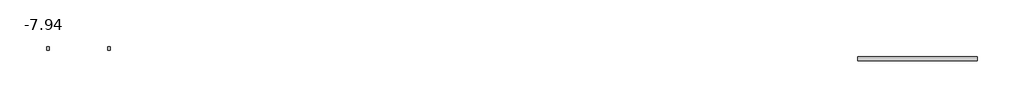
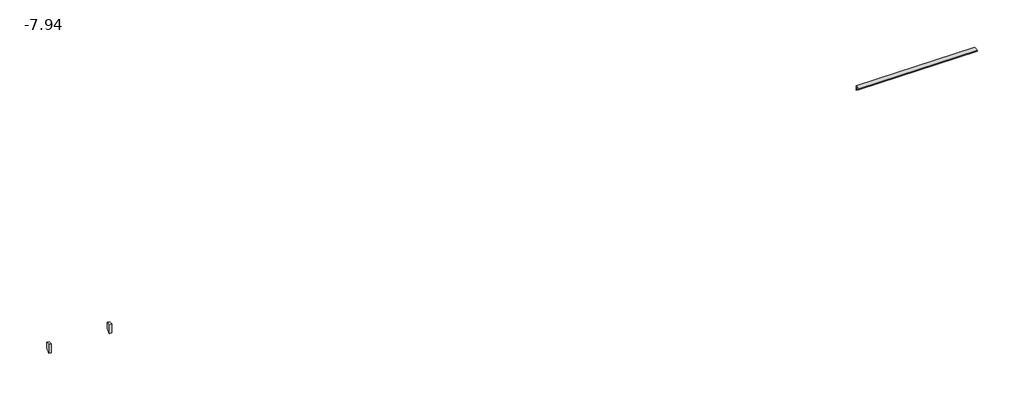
# One storey, incomplete: 3 proxies, 2 beams.
"""IFC4 building model written with IfcOpenShell, lengths in millimetres."""

import ifcopenshell
import ifcopenshell.guid

model = None  # the IFC model being written
_history = None  # IfcOwnerHistory: only IFC2X3 demands one
_inside = {}  # id of a spatial element -> (the spatial element, [elements in it])
_under = {}  # id of a project, library or spatial element -> (it, [spatial elements below it])
_declared = {}  # id of a project -> (the project, [libraries it declares])
_typed = {}  # id of a type object -> (the type object, [elements of that type])
_made_of = {}  # id of a material, layer set ... -> (it, [elements and type objects made of it])


def new_model(schema):
    """Start an empty IFC model of exactly this schema.

    Asked for "IFC4X3", IfcOpenShell would pick the latest addendum, in which some entities
    have other attributes; the version numbers below select the first issue.
    IFC2X3 requires an IfcOwnerHistory on every rooted entity: one is made here for all.
    """
    global model, _history
    if schema == "IFC4X3":
        model = ifcopenshell.file(schema_version=(4, 3, 0, 0))
    else:
        model = ifcopenshell.file(schema=schema)
    _inside.clear()
    _under.clear()
    _declared.clear()
    _typed.clear()
    _made_of.clear()
    _history = None
    if model.schema == "IFC2X3":
        org = make("IfcOrganization", Name="unknown")
        user = make(
            "IfcPersonAndOrganization",
            ThePerson=make("IfcPerson", FamilyName="unknown"),
            TheOrganization=org,
        )
        app = make(
            "IfcApplication",
            ApplicationDeveloper=org,
            Version="unknown",
            ApplicationFullName="unknown",
            ApplicationIdentifier="unknown",
        )
        _history = make(
            "IfcOwnerHistory",
            OwningUser=user,
            OwningApplication=app,
            ChangeAction="ADDED",
            CreationDate=0,
        )
    return model


def make(cls, **values):
    """One entity of the class cls with the attributes given. An attribute that is None is left unset."""
    return model.create_entity(
        cls, **{name: value for name, value in values.items() if value is not None}
    )


def rooted(cls, **values):
    """An entity with a GlobalId (a new one), such as an element, a storey or a relation."""
    return make(cls, GlobalId=ifcopenshell.guid.new(), OwnerHistory=_history, **values)


def si_unit(unit_type, name, prefix=None):
    """IfcSIUnit, for example si_unit("LENGTHUNIT", "METRE", prefix="MILLI")."""
    return make("IfcSIUnit", UnitType=unit_type, Prefix=prefix, Name=name)


def assignment(units):
    """IfcUnitAssignment: the units of a project."""
    return None if units is None else make("IfcUnitAssignment", Units=units)


def point(xyz):
    """IfcCartesianPoint."""
    return None if xyz is None else make("IfcCartesianPoint", Coordinates=xyz)


def direction(xyz):
    """IfcDirection."""
    return None if xyz is None else make("IfcDirection", DirectionRatios=xyz)


def frame(location, z_axis=None, x_axis=None):
    """IfcAxis2Placement3D, a coordinate frame: its origin and axes. An axis left out is left unset."""
    return make(
        "IfcAxis2Placement3D",
        Location=point(location),
        Axis=direction(z_axis),
        RefDirection=direction(x_axis),
    )


def origin():
    """The frame at (0, 0, 0) with its axes left unset."""
    return frame((0.0, 0.0, 0.0))


def place(relative_to, where):
    """IfcLocalPlacement: puts the frame where relative to a parent placement (None: the world)."""
    return make(
        "IfcLocalPlacement", PlacementRelTo=relative_to, RelativePlacement=where
    )


def context(
    kind, dimensions, precision=None, world=None, true_north=None, identifier=None
):
    """IfcGeometricRepresentationContext, for example the 3D "Model" context."""
    return make(
        "IfcGeometricRepresentationContext",
        ContextIdentifier=identifier,
        ContextType=kind,
        CoordinateSpaceDimension=dimensions,
        Precision=precision,
        WorldCoordinateSystem=world,
        TrueNorth=true_north,
    )


def project(units=None, contexts=None):
    """IfcProject with its units and contexts."""
    return rooted(
        "IfcProject",
        Name="project",
        RepresentationContexts=contexts,
        UnitsInContext=assignment(units),
    )


def spatial(cls, under=None, at=None, **own):
    """A site, building, storey or space (cls), placed at a placement, below another one or the project."""
    s = rooted(cls, ObjectPlacement=at, **own)
    if under is not None:
        _under.setdefault(under.id(), (under, []))[1].append(s)
    return s


def polyline(points):
    """IfcPolyline through the points."""
    return make("IfcPolyline", Points=[point(p) for p in points])


def ellipse_curve(where, semi_axis1, semi_axis2):
    """IfcEllipse in the frame where."""
    return make(
        "IfcEllipse", Position=where, SemiAxis1=semi_axis1, SemiAxis2=semi_axis2
    )


def outline(outer, holes=None, kind="AREA"):
    """IfcArbitraryClosedProfileDef: a profile drawn as a closed curve; with holes, ...WithVoids."""
    if holes is None:
        return make("IfcArbitraryClosedProfileDef", ProfileType=kind, OuterCurve=outer)
    return make(
        "IfcArbitraryProfileDefWithVoids",
        ProfileType=kind,
        OuterCurve=outer,
        InnerCurves=holes,
    )


def extrude(swept, where, along, depth):
    """IfcExtrudedAreaSolid: the profile swept, set in the frame where, extruded along a direction by depth."""
    return make(
        "IfcExtrudedAreaSolid",
        SweptArea=swept,
        Position=where,
        ExtrudedDirection=direction(along),
        Depth=depth,
    )


def shape(context_of_items, identifier, shape_type, items):
    """IfcShapeRepresentation: the items that make up one representation, for example the "Body"."""
    return make(
        "IfcShapeRepresentation",
        ContextOfItems=context_of_items,
        RepresentationIdentifier=identifier,
        RepresentationType=shape_type,
        Items=items,
    )


def source(mapping_origin, context_of_items, identifier, shape_type, items):
    """IfcRepresentationMap: a shape defined once, which mapped items show again and again."""
    return make(
        "IfcRepresentationMap",
        MappingOrigin=mapping_origin,
        MappedRepresentation=shape(context_of_items, identifier, shape_type, items),
    )


def transform(
    local_origin,
    x_axis=None,
    y_axis=None,
    z_axis=None,
    scale=None,
    scale2=None,
    scale3=None,
    uniform=True,
):
    """IfcCartesianTransformationOperator3D, or its non-uniform kind. x_axis, y_axis, z_axis: its Axis1, 2, 3."""
    if uniform:
        return make(
            "IfcCartesianTransformationOperator3D",
            Axis1=direction(x_axis),
            Axis2=direction(y_axis),
            LocalOrigin=point(local_origin),
            Scale=scale,
            Axis3=direction(z_axis),
        )
    return make(
        "IfcCartesianTransformationOperator3DnonUniform",
        Axis1=direction(x_axis),
        Axis2=direction(y_axis),
        LocalOrigin=point(local_origin),
        Scale=scale,
        Axis3=direction(z_axis),
        Scale2=scale2,
        Scale3=scale3,
    )


def mapped(mapping_source, mapping_target):
    """IfcMappedItem: shows the shape of a source again, moved by a transform."""
    return make(
        "IfcMappedItem", MappingSource=mapping_source, MappingTarget=mapping_target
    )


def made_of(thing, what):
    """Note that an element or type object is made of a material, layer set ...; save() writes the relation."""
    if what is not None:
        _made_of.setdefault(what.id(), (what, []))[1].append(thing)
    return thing


def element(
    cls,
    number,
    at=None,
    inside=None,
    cuts=None,
    type_object=None,
    material=None,
    context=None,
    identifier="Body",
    shape_type=None,
    held_by="IfcProductDefinitionShape",
    body=None,
    shapes=None,
    **own,
):
    """One element of the class cls, such as IfcWall. Its Tag is "e" and its number.

    at: its placement. inside: the storey or other place that contains it. cuts: it is an
    opening in that element (IfcRelVoidsElement). A single representation is given by context,
    identifier, shape_type and body (its items); several are given by shapes. held_by: the class
    of the entity that holds the representations. save() writes the other relations.
    """
    e = rooted(cls, Tag="e%d" % number, ObjectPlacement=at, **own)
    if body is not None:
        shapes = [shape(context, identifier, shape_type, body)]
    if shapes is not None:
        e.Representation = make(held_by, Representations=shapes)
    if inside is not None:
        _inside.setdefault(inside.id(), (inside, []))[1].append(e)
    if cuts is not None:
        rooted(
            "IfcRelVoidsElement", RelatingBuildingElement=cuts, RelatedOpeningElement=e
        )
    if type_object is not None:
        _typed.setdefault(type_object.id(), (type_object, []))[1].append(e)
    return made_of(e, material)


def aggregate(whole, parts):
    """IfcRelAggregates: a whole, such as a stair, and the parts it consists of."""
    return rooted("IfcRelAggregates", RelatingObject=whole, RelatedObjects=parts)


def save(model, path):
    """Write the relations noted so far, then the file.

    IfcRelAggregates (storeys below a building ...), IfcRelContainedInSpatialStructure (elements
    in a storey), IfcRelDefinesByType, IfcRelAssociatesMaterial and IfcRelDeclares: one each for
    every whole, place, type object, material and project.
    """
    for whole, parts in _under.values():
        aggregate(whole, parts)
    for where, things in _inside.values():
        rooted(
            "IfcRelContainedInSpatialStructure",
            RelatedElements=things,
            RelatingStructure=where,
        )
    for kind, things in _typed.values():
        rooted("IfcRelDefinesByType", RelatedObjects=things, RelatingType=kind)
    for what, things in _made_of.values():
        rooted("IfcRelAssociatesMaterial", RelatedObjects=things, RelatingMaterial=what)
    for by, libraries in _declared.values():
        rooted("IfcRelDeclares", RelatingContext=by, RelatedDefinitions=libraries)
    model.write(path)


def plane_surface(at):
    """IfcPlane: the flat surface through the origin of the frame at, square to its z axis."""
    return make("IfcPlane", Position=at)


def cylinder_surface(at, radius):
    """IfcCylindricalSurface: all points at the distance radius from the z axis of the frame at."""
    return make("IfcCylindricalSurface", Position=at, Radius=radius)


def revolved_surface(curve, axis_point, axis_direction):
    """IfcSurfaceOfRevolution: the curve turned about the line through axis_point along axis_direction."""
    return make(
        "IfcSurfaceOfRevolution",
        SweptCurve=make("IfcArbitraryOpenProfileDef", ProfileType="CURVE", Curve=curve),
        AxisPosition=make("IfcAxis1Placement", Location=point(axis_point), Axis=direction(axis_direction)),
    )


def advanced_brep(points, edges, surfaces, faces):
    """IfcAdvancedBrep: a solid bounded by faces that lie on surfaces and meet in shared edges.

    An edge is (start, end): straight between two places in points (the first is 0);
    or (start, end, curve); or (start, end, curve, False) where it runs against its curve.
    A face is (place in surfaces, loops), or (place, loops, False) where it looks against
    its surface's normal. A loop lists edges by number (the first is 1), with a minus sign
    where the edge is run from its end to its start. The first loop is the outer one.
    """
    corners = [point(p) for p in points]
    vertices = [make("IfcVertexPoint", VertexGeometry=c) for c in corners]
    made = []
    for start, end, *more in edges:
        made.append(
            make(
                "IfcEdgeCurve",
                EdgeStart=vertices[start],
                EdgeEnd=vertices[end],
                EdgeGeometry=more[0] if more else make("IfcPolyline", Points=[corners[start], corners[end]]),
                SameSense=more[1] if len(more) > 1 else True,
            )
        )
    hull = []
    for where, loops, *sense in faces:
        bounds = []
        for j, loop in enumerate(loops):
            ring = [make("IfcOrientedEdge", EdgeElement=made[abs(k) - 1], Orientation=k > 0) for k in loop]
            bounds.append(
                make(
                    "IfcFaceOuterBound" if j == 0 else "IfcFaceBound",
                    Bound=make("IfcEdgeLoop", EdgeList=ring),
                    Orientation=True,
                )
            )
        hull.append(make("IfcAdvancedFace", Bounds=bounds, FaceSurface=surfaces[where], SameSense=sense[0] if sense else True))
    return make("IfcAdvancedBrep", Outer=make("IfcClosedShell", CfsFaces=hull))


def beam_156a2913(model_context):
    return source(origin(), model_context, "Body", "SweptSolid", [
        extrude(outline(polyline([(24702.7284342, -170.0), (24702.7284342, -640.0), (24413.3920265, -926.0), (24413.3920265, -170.0), (24702.7284342, -170.0)])), frame((-571.2723874, 0.0, 0.0), z_axis=(1.0, 0.0, 0.0), x_axis=(0.0, 1.0, 0.0)), (0.0, 0.0, 1.0), 200.0),
    ])


model = new_model("IFC4")

# Units and contexts
model_context = context("Model", 3, world=origin())
ifc_project = project(units=[si_unit("LENGTHUNIT", "METRE", prefix="MILLI")], contexts=[model_context])

# Site, building, storey
site = spatial("IfcSite", under=ifc_project)
building = spatial("IfcBuilding", under=site)
storey = spatial("IfcBuildingStorey", under=building, Name="-7.94", Elevation=-899.9044549)

# Beams
placement = place(None, origin())
beam_shape = beam_156a2913(model_context)
element("IfcBeam", 1, ObjectType="appoggiTravi4 : appoggiTravi", at=placement, inside=storey, context=model_context, shape_type="MappedRepresentation", body=[
    mapped(beam_shape, transform((-9680.0052272, 0.0, 32.0), x_axis=(1.0, 0.0, 0.0), y_axis=(0.0, 1.0, 0.0), z_axis=(0.0, 0.0, 1.0))),
])
element("IfcBeam", 2, ObjectType="appoggiTravi7 : appoggiTravi", at=placement, inside=storey, context=model_context, shape_type="MappedRepresentation", body=[
    mapped(beam_shape, transform((-14520.0078408, 0.0, 48.5), x_axis=(1.0, 0.0, 0.0), y_axis=(0.0, 1.0, 0.0), z_axis=(0.0, 0.0, 1.0))),
])

# Proxies
element("IfcBuildingElementProxy", 3, Name="Thickened 24\" x 12\"", ObjectType="Thickened 24\" x 12\"", at=placement, inside=storey, context=model_context, shape_type="AdvancedBrep", body=[
    advanced_brep(
    [(49007.3573777, 23893.5345489, -801.074069), (49007.3573777, 23893.5345489, -776.0734085), (49007.3573777, 23869.2975025, -776.0734085), (49007.3573777, 23865.7141427, -742.8516604), (49007.3573777, 23830.9579571, -693.0230187), (49007.3573777, 23840.2403547, -643.4060681), (49007.3573777, 23840.2403547, -613.4143381), (49007.3573777, 23810.2807918, -613.4143381), (49007.3573777, 23810.2807918, -552.8811566), (49007.3573777, 23623.3920265, -552.8811566), (49007.3573777, 23623.3920265, -592.8822133), (49007.3573777, 23563.3920265, -592.8822133), (49007.3573777, 23563.3920265, -482.5363397), (49007.3573777, 23913.3920265, -462.878779), (49007.3573777, 23913.3920265, -801.074069), (58487.3573777, 23893.5345489, -869.9824012), (58487.3573777, 23913.3920265, -869.9824012), (58487.3573777, 23913.3920265, -531.7871112), (58487.3573777, 23563.3920265, -551.4446719), (58487.3573777, 23563.3920265, -661.7905455), (58487.3573777, 23623.3920265, -661.7905455), (58487.3573777, 23623.3920265, -621.7894888), (58487.3573777, 23810.2807918, -621.7894888), (58487.3573777, 23810.2807918, -682.3226703), (58487.3573777, 23840.2403547, -682.3226703), (58487.3573777, 23840.2403547, -712.3144004), (58487.3573777, 23830.9579571, -761.9313509), (58487.3573777, 23865.7141427, -811.7599926), (58487.3573777, 23869.2975025, -844.9817408), (58487.3573777, 23893.5345489, -844.9817408)],
    [
        (0, 1),
        (1, 2),
        (2, 3),
        (3, 4, ellipse_curve(frame((49007.3573777, 23810.7306972, -744.1689932), z_axis=(1.0, 0.0, 0.0), x_axis=(0.0, 0.0, -1.0)), 55.0006761, 54.9992232)),
        (4, 5, ellipse_curve(frame((49007.3573777, 23837.1642514, -668.5073588), z_axis=(-1.0, 0.0, 0.0), x_axis=(0.0, 0.0, 1.0)), 25.2890827, 25.2884146)),
        (5, 6),
        (6, 7),
        (7, 8),
        (8, 9),
        (9, 10),
        (10, 11),
        (11, 12),
        (12, 13),
        (13, 14),
        (14, 0),
        (15, 16),
        (16, 17),
        (17, 18),
        (18, 19),
        (19, 20),
        (20, 21),
        (21, 22),
        (22, 23),
        (23, 24),
        (24, 25),
        (25, 26, ellipse_curve(frame((58487.3573777, 23837.1642514, -737.415691), z_axis=(1.0, 0.0, 0.0), x_axis=(0.0, 0.0, 1.0)), 25.2890827, 25.2884146)),
        (26, 27, ellipse_curve(frame((58487.3573777, 23810.7306972, -813.0773254), z_axis=(-1.0, 0.0, 0.0), x_axis=(0.0, 0.0, -1.0)), 55.0006761, 54.9992232)),
        (27, 28),
        (28, 29),
        (29, 15),
        (0, 15),
        (29, 1),
        (28, 2),
        (27, 3),
        (26, 4),
        (25, 5),
        (24, 6),
        (23, 7),
        (22, 8),
        (21, 9),
        (20, 10),
        (19, 11),
        (18, 12),
        (17, 13),
        (16, 14),
    ],
    [
        plane_surface(frame((49007.3573777, 23913.3920265, -582.8819491), z_axis=(-1.0, 0.0, 0.0), x_axis=(0.0, 1.0, 0.0))),
        plane_surface(frame((58487.3573777, 23913.3920265, -651.7902813), z_axis=(1.0, 0.0, 0.0), x_axis=(0.0, 1.0, 0.0))),
        plane_surface(frame((49007.3573777, 23893.5345489, -801.074069), z_axis=(0.0, -1.0000000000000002, 0.0), x_axis=(0.9999735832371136, 0.0, -0.007268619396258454))),
        plane_surface(frame((49007.3573777, 23893.5345489, -776.0734085), z_axis=(-0.007268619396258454, 0.0, -0.9999735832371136), x_axis=(0.9999735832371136, 0.0, -0.007268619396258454))),
        plane_surface(frame((49007.3573777, 23869.2975025, -776.0734085), z_axis=(-0.0007795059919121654, -0.9942328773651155, -0.1072398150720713), x_axis=(0.9999735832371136, 0.0, -0.0072686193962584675))),
        revolved_surface(polyline([(58487.757146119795, 23755.731474, -813.080231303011), (49006.957609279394, 23755.731474, -744.1660874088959)]), (49006.1850746, 23810.7306972, -744.160472), (0.9999735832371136, 0.0, -0.0072686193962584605)),
        cylinder_surface(frame((49006.7350157, 23837.1642514, -668.502835), z_axis=(-0.9999735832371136, 0.0, 0.0072686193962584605), x_axis=(0.0, -1.0, 0.0)), 25.2884146),
        plane_surface(frame((49007.3573777, 23840.2403547, -643.4060681), z_axis=(0.0, -1.0000000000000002, 0.0), x_axis=(0.9999735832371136, 0.0, -0.007268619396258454))),
        plane_surface(frame((49007.3573777, 23840.2403547, -613.4143381), z_axis=(-0.007268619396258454, 0.0, -0.9999735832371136), x_axis=(0.9999735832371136, 0.0, -0.007268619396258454))),
        plane_surface(frame((49007.3573777, 23810.2807918, -613.4143381), z_axis=(0.0, -1.0000000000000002, 0.0), x_axis=(0.9999735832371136, 0.0, -0.007268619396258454))),
        plane_surface(frame((49007.3573777, 23810.2807918, -552.8811566), z_axis=(-0.0072686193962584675, 0.0, -0.9999735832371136), x_axis=(0.9999735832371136, 0.0, -0.0072686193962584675))),
        plane_surface(frame((49007.3573777, 23623.3920265, -552.8811566), z_axis=(0.0, 1.0000000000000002, 0.0), x_axis=(0.9999735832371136, 0.0, -0.0072686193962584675))),
        plane_surface(frame((49007.3573777, 23623.3920265, -592.8822133), z_axis=(-0.0072686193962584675, 0.0, -0.9999735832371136), x_axis=(0.9999735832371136, 0.0, -0.0072686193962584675))),
        plane_surface(frame((49007.3573777, 23563.3920265, -592.8822133), z_axis=(0.0, -1.0000000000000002, 0.0), x_axis=(0.9999735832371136, 0.0, -0.0072686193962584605))),
        plane_surface(frame((49007.3573777, 23563.3920265, -482.5363397), z_axis=(0.0072571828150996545, -0.056074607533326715, 0.9984002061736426), x_axis=(0.9999735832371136, 0.0, -0.0072686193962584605))),
        plane_surface(frame((49007.3573777, 23913.3920265, -462.878779), z_axis=(0.0, 1.0000000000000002, 0.0), x_axis=(0.9999735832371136, 0.0, -0.007268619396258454))),
        plane_surface(frame((49007.3573777, 23913.3920265, -801.074069), z_axis=(-0.007268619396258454, 0.0, -0.9999735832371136), x_axis=(0.9999735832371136, 0.0, -0.007268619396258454))),
    ],
    [
        (0, [[1, 2, 3, 4, 5, 6, 7, 8, 9, 10, 11, 12, 13, 14, 15]]),
        (1, [[16, 17, 18, 19, 20, 21, 22, 23, 24, 25, 26, 27, 28, 29, 30]]),
        (2, [[-1, 31, -30, 32]]),
        (3, [[-2, -32, -29, 33]]),
        (4, [[-3, -33, -28, 34]]),
        (5, [[-4, -34, -27, 35]]),
        (6, [[-5, -35, -26, 36]]),
        (7, [[-6, -36, -25, 37]]),
        (8, [[-7, -37, -24, 38]]),
        (9, [[-8, -38, -23, 39]]),
        (10, [[-9, -39, -22, 40]]),
        (11, [[-10, -40, -21, 41]]),
        (12, [[-11, -41, -20, 42]]),
        (13, [[-12, -42, -19, 43]]),
        (14, [[-13, -43, -18, 44]]),
        (15, [[-14, -44, -17, 45]]),
        (16, [[-15, -45, -16, -31]]),
    ],
),
])
element("IfcBuildingElementProxy", 4, Name="Thickened 24\" x 12\"", ObjectType="Thickened 24\" x 12\"", at=placement, inside=storey, context=model_context, shape_type="AdvancedBrep", body=[
    advanced_brep(
    [(49007.3573777, 23893.5345489, -801.074069), (49007.3573777, 23893.5345489, -776.0734085), (49007.3573777, 23869.2975025, -776.0734085), (49007.3573777, 23865.7141427, -742.8516604), (49007.3573777, 23830.9579571, -693.0230187), (49007.3573777, 23840.2403547, -643.4060681), (49007.3573777, 23840.2403547, -613.4143381), (49007.3573777, 23810.2807918, -613.4143381), (49007.3573777, 23810.2807918, -552.8811566), (49007.3573777, 23623.3920265, -552.8811566), (49007.3573777, 23623.3920265, -592.8822133), (49007.3573777, 23563.3920265, -592.8822133), (49007.3573777, 23563.3920265, -482.5363397), (49007.3573777, 23913.3920265, -462.878779), (49007.3573777, 23913.3920265, -801.074069), (58487.3573777, 23893.5345489, -869.9824012), (58487.3573777, 23913.3920265, -869.9824012), (58487.3573777, 23913.3920265, -531.7871112), (58487.3573777, 23563.3920265, -551.4446719), (58487.3573777, 23563.3920265, -661.7905455), (58487.3573777, 23623.3920265, -661.7905455), (58487.3573777, 23623.3920265, -621.7894888), (58487.3573777, 23810.2807918, -621.7894888), (58487.3573777, 23810.2807918, -682.3226703), (58487.3573777, 23840.2403547, -682.3226703), (58487.3573777, 23840.2403547, -712.3144004), (58487.3573777, 23830.9579571, -761.9313509), (58487.3573777, 23865.7141427, -811.7599926), (58487.3573777, 23869.2975025, -844.9817408), (58487.3573777, 23893.5345489, -844.9817408)],
    [
        (0, 1),
        (1, 2),
        (2, 3),
        (3, 4, ellipse_curve(frame((49007.3573777, 23810.7306972, -744.1689932), z_axis=(1.0, 0.0, 0.0), x_axis=(0.0, 0.0, -1.0)), 55.0006761, 54.9992232)),
        (4, 5, ellipse_curve(frame((49007.3573777, 23837.1642514, -668.5073588), z_axis=(-1.0, 0.0, 0.0), x_axis=(0.0, 0.0, 1.0)), 25.2890827, 25.2884146)),
        (5, 6),
        (6, 7),
        (7, 8),
        (8, 9),
        (9, 10),
        (10, 11),
        (11, 12),
        (12, 13),
        (13, 14),
        (14, 0),
        (15, 16),
        (16, 17),
        (17, 18),
        (18, 19),
        (19, 20),
        (20, 21),
        (21, 22),
        (22, 23),
        (23, 24),
        (24, 25),
        (25, 26, ellipse_curve(frame((58487.3573777, 23837.1642514, -737.415691), z_axis=(1.0, 0.0, 0.0), x_axis=(0.0, 0.0, 1.0)), 25.2890827, 25.2884146)),
        (26, 27, ellipse_curve(frame((58487.3573777, 23810.7306972, -813.0773254), z_axis=(-1.0, 0.0, 0.0), x_axis=(0.0, 0.0, -1.0)), 55.0006761, 54.9992232)),
        (27, 28),
        (28, 29),
        (29, 15),
        (0, 15),
        (29, 1),
        (28, 2),
        (27, 3),
        (26, 4),
        (25, 5),
        (24, 6),
        (23, 7),
        (22, 8),
        (21, 9),
        (20, 10),
        (19, 11),
        (18, 12),
        (17, 13),
        (16, 14),
    ],
    [
        plane_surface(frame((49007.3573777, 23913.3920265, -582.8819491), z_axis=(-1.0, 0.0, 0.0), x_axis=(0.0, 1.0, 0.0))),
        plane_surface(frame((58487.3573777, 23913.3920265, -651.7902813), z_axis=(1.0, 0.0, 0.0), x_axis=(0.0, 1.0, 0.0))),
        plane_surface(frame((49007.3573777, 23893.5345489, -801.074069), z_axis=(0.0, -1.0000000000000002, 0.0), x_axis=(0.9999735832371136, 0.0, -0.007268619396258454))),
        plane_surface(frame((49007.3573777, 23893.5345489, -776.0734085), z_axis=(-0.007268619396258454, 0.0, -0.9999735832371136), x_axis=(0.9999735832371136, 0.0, -0.007268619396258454))),
        plane_surface(frame((49007.3573777, 23869.2975025, -776.0734085), z_axis=(-0.0007795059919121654, -0.9942328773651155, -0.1072398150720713), x_axis=(0.9999735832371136, 0.0, -0.0072686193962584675))),
        revolved_surface(polyline([(58487.757146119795, 23755.731474, -813.080231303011), (49006.957609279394, 23755.731474, -744.1660874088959)]), (49006.1850746, 23810.7306972, -744.160472), (0.9999735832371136, 0.0, -0.0072686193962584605)),
        cylinder_surface(frame((49006.7350157, 23837.1642514, -668.502835), z_axis=(-0.9999735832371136, 0.0, 0.0072686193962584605), x_axis=(0.0, -1.0, 0.0)), 25.2884146),
        plane_surface(frame((49007.3573777, 23840.2403547, -643.4060681), z_axis=(0.0, -1.0000000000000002, 0.0), x_axis=(0.9999735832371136, 0.0, -0.007268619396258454))),
        plane_surface(frame((49007.3573777, 23840.2403547, -613.4143381), z_axis=(-0.007268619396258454, 0.0, -0.9999735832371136), x_axis=(0.9999735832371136, 0.0, -0.007268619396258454))),
        plane_surface(frame((49007.3573777, 23810.2807918, -613.4143381), z_axis=(0.0, -1.0000000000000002, 0.0), x_axis=(0.9999735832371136, 0.0, -0.007268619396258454))),
        plane_surface(frame((49007.3573777, 23810.2807918, -552.8811566), z_axis=(-0.0072686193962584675, 0.0, -0.9999735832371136), x_axis=(0.9999735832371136, 0.0, -0.0072686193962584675))),
        plane_surface(frame((49007.3573777, 23623.3920265, -552.8811566), z_axis=(0.0, 1.0000000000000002, 0.0), x_axis=(0.9999735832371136, 0.0, -0.0072686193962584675))),
        plane_surface(frame((49007.3573777, 23623.3920265, -592.8822133), z_axis=(-0.0072686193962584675, 0.0, -0.9999735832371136), x_axis=(0.9999735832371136, 0.0, -0.0072686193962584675))),
        plane_surface(frame((49007.3573777, 23563.3920265, -592.8822133), z_axis=(0.0, -1.0000000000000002, 0.0), x_axis=(0.9999735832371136, 0.0, -0.0072686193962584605))),
        plane_surface(frame((49007.3573777, 23563.3920265, -482.5363397), z_axis=(0.0072571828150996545, -0.056074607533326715, 0.9984002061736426), x_axis=(0.9999735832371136, 0.0, -0.0072686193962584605))),
        plane_surface(frame((49007.3573777, 23913.3920265, -462.878779), z_axis=(0.0, 1.0000000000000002, 0.0), x_axis=(0.9999735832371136, 0.0, -0.007268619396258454))),
        plane_surface(frame((49007.3573777, 23913.3920265, -801.074069), z_axis=(-0.007268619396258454, 0.0, -0.9999735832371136), x_axis=(0.9999735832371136, 0.0, -0.007268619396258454))),
    ],
    [
        (0, [[1, 2, 3, 4, 5, 6, 7, 8, 9, 10, 11, 12, 13, 14, 15]]),
        (1, [[16, 17, 18, 19, 20, 21, 22, 23, 24, 25, 26, 27, 28, 29, 30]]),
        (2, [[-1, 31, -30, 32]]),
        (3, [[-2, -32, -29, 33]]),
        (4, [[-3, -33, -28, 34]]),
        (5, [[-4, -34, -27, 35]]),
        (6, [[-5, -35, -26, 36]]),
        (7, [[-6, -36, -25, 37]]),
        (8, [[-7, -37, -24, 38]]),
        (9, [[-8, -38, -23, 39]]),
        (10, [[-9, -39, -22, 40]]),
        (11, [[-10, -40, -21, 41]]),
        (12, [[-11, -41, -20, 42]]),
        (13, [[-12, -42, -19, 43]]),
        (14, [[-13, -43, -18, 44]]),
        (15, [[-14, -44, -17, 45]]),
        (16, [[-15, -45, -16, -31]]),
    ],
),
])
element("IfcBuildingElementProxy", 5, Name="Thickened 24\" x 12\"", ObjectType="Thickened 24\" x 12\"", at=placement, inside=storey, context=model_context, shape_type="AdvancedBrep", body=[
    advanced_brep(
    [(49007.3573777, 23893.5345489, -801.074069), (49007.3573777, 23893.5345489, -776.0734085), (49007.3573777, 23869.2975025, -776.0734085), (49007.3573777, 23865.7141427, -742.8516604), (49007.3573777, 23830.9579571, -693.0230187), (49007.3573777, 23840.2403547, -643.4060681), (49007.3573777, 23840.2403547, -613.4143381), (49007.3573777, 23810.2807918, -613.4143381), (49007.3573777, 23810.2807918, -552.8811566), (49007.3573777, 23623.3920265, -552.8811566), (49007.3573777, 23623.3920265, -592.8822133), (49007.3573777, 23563.3920265, -592.8822133), (49007.3573777, 23563.3920265, -482.5363397), (49007.3573777, 23913.3920265, -462.878779), (49007.3573777, 23913.3920265, -801.074069), (58487.3573777, 23893.5345489, -869.9824012), (58487.3573777, 23913.3920265, -869.9824012), (58487.3573777, 23913.3920265, -531.7871112), (58487.3573777, 23563.3920265, -551.4446719), (58487.3573777, 23563.3920265, -661.7905455), (58487.3573777, 23623.3920265, -661.7905455), (58487.3573777, 23623.3920265, -621.7894888), (58487.3573777, 23810.2807918, -621.7894888), (58487.3573777, 23810.2807918, -682.3226703), (58487.3573777, 23840.2403547, -682.3226703), (58487.3573777, 23840.2403547, -712.3144004), (58487.3573777, 23830.9579571, -761.9313509), (58487.3573777, 23865.7141427, -811.7599926), (58487.3573777, 23869.2975025, -844.9817408), (58487.3573777, 23893.5345489, -844.9817408)],
    [
        (0, 1),
        (1, 2),
        (2, 3),
        (3, 4, ellipse_curve(frame((49007.3573777, 23810.7306972, -744.1689932), z_axis=(1.0, 0.0, 0.0), x_axis=(0.0, 0.0, -1.0)), 55.0006761, 54.9992232)),
        (4, 5, ellipse_curve(frame((49007.3573777, 23837.1642514, -668.5073588), z_axis=(-1.0, 0.0, 0.0), x_axis=(0.0, 0.0, 1.0)), 25.2890827, 25.2884146)),
        (5, 6),
        (6, 7),
        (7, 8),
        (8, 9),
        (9, 10),
        (10, 11),
        (11, 12),
        (12, 13),
        (13, 14),
        (14, 0),
        (15, 16),
        (16, 17),
        (17, 18),
        (18, 19),
        (19, 20),
        (20, 21),
        (21, 22),
        (22, 23),
        (23, 24),
        (24, 25),
        (25, 26, ellipse_curve(frame((58487.3573777, 23837.1642514, -737.415691), z_axis=(1.0, 0.0, 0.0), x_axis=(0.0, 0.0, 1.0)), 25.2890827, 25.2884146)),
        (26, 27, ellipse_curve(frame((58487.3573777, 23810.7306972, -813.0773254), z_axis=(-1.0, 0.0, 0.0), x_axis=(0.0, 0.0, -1.0)), 55.0006761, 54.9992232)),
        (27, 28),
        (28, 29),
        (29, 15),
        (0, 15),
        (29, 1),
        (28, 2),
        (27, 3),
        (26, 4),
        (25, 5),
        (24, 6),
        (23, 7),
        (22, 8),
        (21, 9),
        (20, 10),
        (19, 11),
        (18, 12),
        (17, 13),
        (16, 14),
    ],
    [
        plane_surface(frame((49007.3573777, 23913.3920265, -582.8819491), z_axis=(-1.0, 0.0, 0.0), x_axis=(0.0, 1.0, 0.0))),
        plane_surface(frame((58487.3573777, 23913.3920265, -651.7902813), z_axis=(1.0, 0.0, 0.0), x_axis=(0.0, 1.0, 0.0))),
        plane_surface(frame((49007.3573777, 23893.5345489, -801.074069), z_axis=(0.0, -1.0000000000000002, 0.0), x_axis=(0.9999735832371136, 0.0, -0.007268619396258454))),
        plane_surface(frame((49007.3573777, 23893.5345489, -776.0734085), z_axis=(-0.007268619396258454, 0.0, -0.9999735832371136), x_axis=(0.9999735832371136, 0.0, -0.007268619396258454))),
        plane_surface(frame((49007.3573777, 23869.2975025, -776.0734085), z_axis=(-0.0007795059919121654, -0.9942328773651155, -0.1072398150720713), x_axis=(0.9999735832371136, 0.0, -0.0072686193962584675))),
        revolved_surface(polyline([(58487.757146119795, 23755.731474, -813.080231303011), (49006.957609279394, 23755.731474, -744.1660874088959)]), (49006.1850746, 23810.7306972, -744.160472), (0.9999735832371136, 0.0, -0.0072686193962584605)),
        cylinder_surface(frame((49006.7350157, 23837.1642514, -668.502835), z_axis=(-0.9999735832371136, 0.0, 0.0072686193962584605), x_axis=(0.0, -1.0, 0.0)), 25.2884146),
        plane_surface(frame((49007.3573777, 23840.2403547, -643.4060681), z_axis=(0.0, -1.0000000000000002, 0.0), x_axis=(0.9999735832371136, 0.0, -0.007268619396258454))),
        plane_surface(frame((49007.3573777, 23840.2403547, -613.4143381), z_axis=(-0.007268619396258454, 0.0, -0.9999735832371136), x_axis=(0.9999735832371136, 0.0, -0.007268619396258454))),
        plane_surface(frame((49007.3573777, 23810.2807918, -613.4143381), z_axis=(0.0, -1.0000000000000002, 0.0), x_axis=(0.9999735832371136, 0.0, -0.007268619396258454))),
        plane_surface(frame((49007.3573777, 23810.2807918, -552.8811566), z_axis=(-0.0072686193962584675, 0.0, -0.9999735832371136), x_axis=(0.9999735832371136, 0.0, -0.0072686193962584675))),
        plane_surface(frame((49007.3573777, 23623.3920265, -552.8811566), z_axis=(0.0, 1.0000000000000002, 0.0), x_axis=(0.9999735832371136, 0.0, -0.0072686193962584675))),
        plane_surface(frame((49007.3573777, 23623.3920265, -592.8822133), z_axis=(-0.0072686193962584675, 0.0, -0.9999735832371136), x_axis=(0.9999735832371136, 0.0, -0.0072686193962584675))),
        plane_surface(frame((49007.3573777, 23563.3920265, -592.8822133), z_axis=(0.0, -1.0000000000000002, 0.0), x_axis=(0.9999735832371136, 0.0, -0.0072686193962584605))),
        plane_surface(frame((49007.3573777, 23563.3920265, -482.5363397), z_axis=(0.0072571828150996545, -0.056074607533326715, 0.9984002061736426), x_axis=(0.9999735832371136, 0.0, -0.0072686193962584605))),
        plane_surface(frame((49007.3573777, 23913.3920265, -462.878779), z_axis=(0.0, 1.0000000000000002, 0.0), x_axis=(0.9999735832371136, 0.0, -0.007268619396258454))),
        plane_surface(frame((49007.3573777, 23913.3920265, -801.074069), z_axis=(-0.007268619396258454, 0.0, -0.9999735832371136), x_axis=(0.9999735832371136, 0.0, -0.007268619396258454))),
    ],
    [
        (0, [[1, 2, 3, 4, 5, 6, 7, 8, 9, 10, 11, 12, 13, 14, 15]]),
        (1, [[16, 17, 18, 19, 20, 21, 22, 23, 24, 25, 26, 27, 28, 29, 30]]),
        (2, [[-1, 31, -30, 32]]),
        (3, [[-2, -32, -29, 33]]),
        (4, [[-3, -33, -28, 34]]),
        (5, [[-4, -34, -27, 35]]),
        (6, [[-5, -35, -26, 36]]),
        (7, [[-6, -36, -25, 37]]),
        (8, [[-7, -37, -24, 38]]),
        (9, [[-8, -38, -23, 39]]),
        (10, [[-9, -39, -22, 40]]),
        (11, [[-10, -40, -21, 41]]),
        (12, [[-11, -41, -20, 42]]),
        (13, [[-12, -42, -19, 43]]),
        (14, [[-13, -43, -18, 44]]),
        (15, [[-14, -44, -17, 45]]),
        (16, [[-15, -45, -16, -31]]),
    ],
),
])

save(model, "model.ifc")
